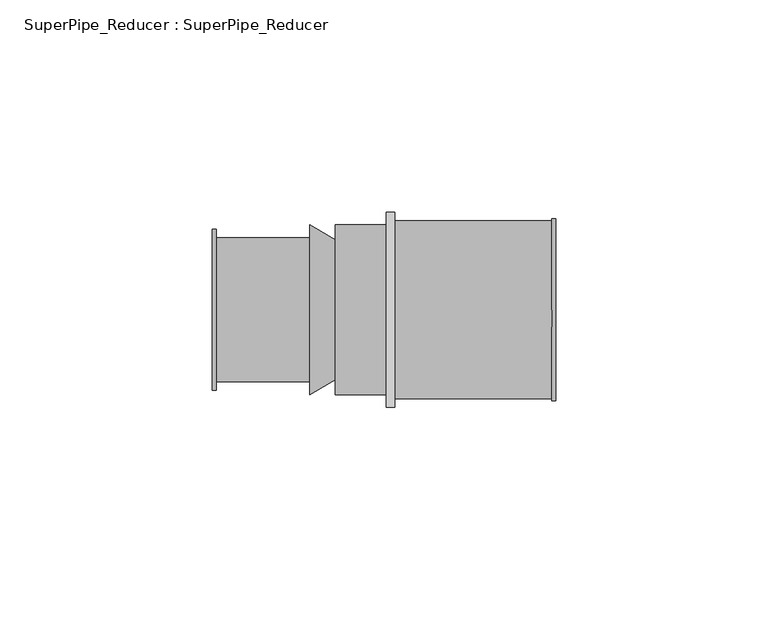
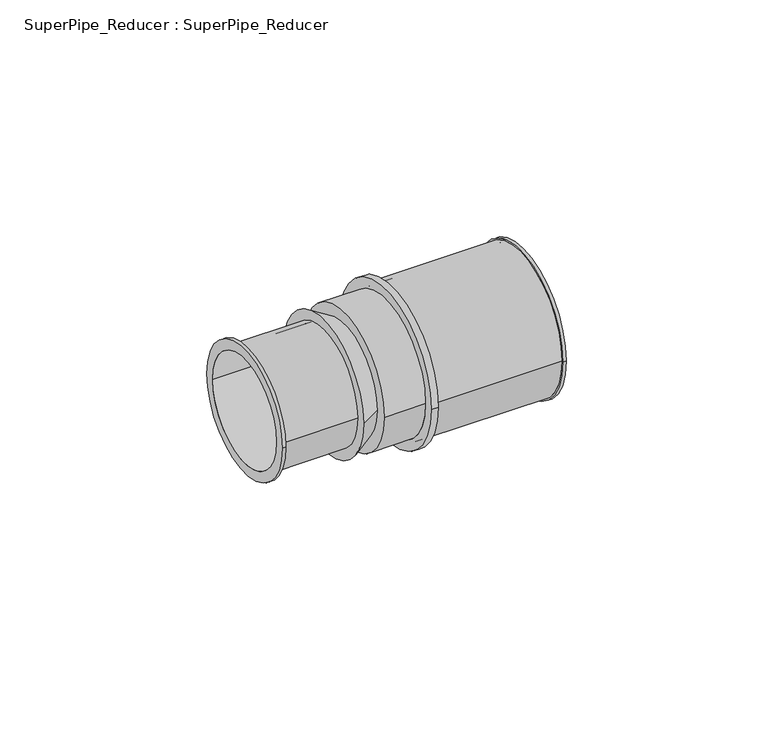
"""IFC4 building model written with IfcOpenShell, lengths in millimetres: pipe fitting geometry, SuperPipe_Reducer : SuperPipe_Reducer."""

from ifc_helpers import new_model, si_unit, point, frame, origin, origin_2d, place, context, project, spatial, polyline, circle_curve, trimmed, segment, composite_curve, outline, extrude, source, transform, mapped, element, save
from ifc_brep_helpers import plane_surface, cylinder_surface, revolved_surface, advanced_brep


def superpipe_reducer_superpipe_reducer_5a229b10(model_context):
    return source(origin(), model_context, "Body", "SolidModel", [
        advanced_brep(
        [(-29.0, -19.0, 0.0), (-29.0, 19.0, 0.0), (-29.0, -16.0, 0.0), (-29.0, 16.0, 0.0), (-6.0, -17.0, 0.0), (-6.0, 17.0, 0.0), (-6.0, -16.0, 0.0), (-6.0, 16.0, 0.0), (-28.0, -16.0, 0.0), (-28.0, 16.0, 0.0), (-28.0, 17.0, 0.0), (-28.0, -17.0, 0.0), (-28.0, -19.0, 0.0), (-28.0, 19.0, 0.0)],
        [
            (0, 1, circle_curve(frame((-29.0, 0.0, 0.0), z_axis=(-1.0, 0.0, 0.0), x_axis=(0.0, 1.0, 0.0)), 19.0)),
            (1, 0, circle_curve(frame((-29.0, 0.0, 0.0), z_axis=(-1.0, 0.0, 0.0), x_axis=(0.0, 1.0, 0.0)), 19.0)),
            (2, 3, circle_curve(frame((-29.0, 0.0, 0.0), z_axis=(1.0, 0.0, 0.0), x_axis=(0.0, 1.0, 0.0)), 16.0)),
            (3, 2, circle_curve(frame((-29.0, 0.0, 0.0), z_axis=(1.0, 0.0, 0.0), x_axis=(0.0, 1.0, 0.0)), 16.0)),
            (4, 5, circle_curve(frame((-6.0, 0.0, 0.0), z_axis=(1.0, 0.0, 0.0), x_axis=(0.0, 1.0, 0.0)), 17.0)),
            (5, 4, circle_curve(frame((-6.0, 0.0, 0.0), z_axis=(1.0, 0.0, 0.0), x_axis=(0.0, 1.0, 0.0)), 17.0)),
            (6, 7, circle_curve(frame((-6.0, 0.0, 0.0), z_axis=(-1.0, 0.0, 0.0), x_axis=(0.0, 1.0, 0.0)), 16.0)),
            (7, 6, circle_curve(frame((-6.0, 0.0, 0.0), z_axis=(-1.0, 0.0, 0.0), x_axis=(0.0, 1.0, 0.0)), 16.0)),
            (2, 8),
            (8, 6),
            (7, 9),
            (9, 3),
            (5, 10),
            (10, 11, circle_curve(frame((-28.0, 0.0, 0.0), z_axis=(1.0, 0.0, 0.0), x_axis=(0.0, 1.0, 0.0)), 17.0)),
            (11, 4),
            (11, 10, circle_curve(frame((-28.0, 0.0, 0.0), z_axis=(1.0, 0.0, 0.0), x_axis=(0.0, 1.0, 0.0)), 17.0)),
            (12, 13, circle_curve(frame((-28.0, 0.0, 0.0), z_axis=(1.0, 0.0, 0.0), x_axis=(0.0, 1.0, 0.0)), 19.0)),
            (13, 12, circle_curve(frame((-28.0, 0.0, 0.0), z_axis=(1.0, 0.0, 0.0), x_axis=(0.0, 1.0, 0.0)), 19.0)),
            (1, 13),
            (12, 0),
        ],
        [
            plane_surface(frame((-29.0, 0.0, 0.0), z_axis=(-1.0, 0.0, 0.0), x_axis=(0.0, 0.0, 1.0))),
            plane_surface(frame((-6.0, 0.0, 0.0), z_axis=(1.0, 0.0, 0.0), x_axis=(0.0, 0.0, 1.0))),
            revolved_surface(polyline([(-6.0, 16.0, 0.0), (-29.0, 16.0, 0.0)]), (-29.0, 0.0, 0.0), (1.0, 0.0, 0.0)),
            cylinder_surface(frame((-29.0, 0.0, 0.0), z_axis=(-1.0, 0.0, 0.0), x_axis=(0.0, 1.0, 0.0)), 17.0),
            plane_surface(frame((-28.0, 0.0, 0.0), z_axis=(1.0, 0.0, 0.0), x_axis=(0.0, 0.0, 1.0))),
            cylinder_surface(frame((-29.0, 0.0, 0.0), z_axis=(-1.0, 0.0, 0.0), x_axis=(0.0, 1.0, 0.0)), 19.0),
        ],
        [
            (0, [[1, 2], [3, 4]]),
            (1, [[5, 6], [7, 8]]),
            (2, [[-3, 9, 10, -8, 11, 12]]),
            (2, [[-4, -12, -11, -7, -10, -9]]),
            (3, [[-6, 13, 14, 15]]),
            (3, [[-5, -15, 16, -13]]),
            (4, [[17, 18], [-14, -16]]),
            (5, [[-2, 19, -17, 20]]),
            (5, [[-1, -20, -18, -19]]),
        ],
    ),
        advanced_brep(
        [(0.0, -16.5, 0.0), (0.0, 16.5, 0.0), (0.0, -16.0, 0.0), (0.0, 16.0, 0.0), (-6.0, -20.0, 0.0), (-6.0, 20.0, 0.0), (-6.0, 16.0, 0.0), (-6.0, -16.0, 0.0)],
        [
            (0, 1, circle_curve(frame((0.0, 0.0, 0.0), z_axis=(1.0, 0.0, 0.0), x_axis=(0.0, -1.0, 0.0)), 16.5)),
            (1, 0, circle_curve(frame((0.0, 0.0, 0.0), z_axis=(1.0, 0.0, 0.0), x_axis=(0.0, 1.0, 0.0)), 16.5)),
            (2, 3, circle_curve(frame((0.0, 0.0, 0.0), z_axis=(-1.0, 0.0, 0.0), x_axis=(0.0, 1.0, 0.0)), 16.0)),
            (3, 2, circle_curve(frame((0.0, 0.0, 0.0), z_axis=(-1.0, 0.0, 0.0), x_axis=(0.0, 1.0, 0.0)), 16.0)),
            (4, 5, circle_curve(frame((-6.0, 0.0, 0.0), z_axis=(-1.0, 0.0, 0.0), x_axis=(0.0, 1.0, 0.0)), 20.0)),
            (5, 4, circle_curve(frame((-6.0, 0.0, 0.0), z_axis=(-1.0, 0.0, 0.0), x_axis=(0.0, -1.0, 0.0)), 20.0)),
            (6, 7, circle_curve(frame((-6.0, 0.0, 0.0), z_axis=(1.0, 0.0, 0.0), x_axis=(0.0, 1.0, 0.0)), 16.0)),
            (7, 6, circle_curve(frame((-6.0, 0.0, 0.0), z_axis=(1.0, 0.0, 0.0), x_axis=(0.0, 1.0, 0.0)), 16.0)),
            (0, 4),
            (5, 1),
            (6, 3),
            (2, 7),
        ],
        [
            plane_surface(frame((0.0, 0.0, 0.0), z_axis=(1.0, 0.0, 0.0), x_axis=(0.0, 0.0, -1.0))),
            plane_surface(frame((-6.0, 0.0, 0.0), z_axis=(-1.0, 0.0, 0.0), x_axis=(0.0, 0.0, -1.0))),
            revolved_surface(polyline([(0.0, -16.500000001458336, 0.0), (-5.9999999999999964, -20.0, 0.0)]), (28.2857143, 0.0, 0.0), (-1.0, 0.0, 0.0)),
            revolved_surface(polyline([(0.0, 16.500000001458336, 0.0), (-5.9999999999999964, 20.0, 0.0)]), (28.2857143, 0.0, 0.0), (-1.0, 0.0, 0.0)),
            revolved_surface(polyline([(-6.0, 16.0, 0.0), (0.0, 16.0, 0.0)]), (-6.0, 0.0, 0.0), (-1.0, 0.0, 0.0)),
        ],
        [
            (0, [[1, 2], [3, 4]]),
            (1, [[5, 6], [7, 8]]),
            (2, [[-1, 9, -6, 10]]),
            (3, [[-2, -10, -5, -9]]),
            (4, [[11, -3, 12, -7]]),
            (4, [[-11, -8, -12, -4]]),
        ],
    ),
        extrude(outline(composite_curve([segment(trimmed(circle_curve(origin_2d(), 23.0), [point((-23.0, 0.0))], [point((23.0, 0.0))], False, "CARTESIAN"), True, "CONTINUOUS"), segment(trimmed(circle_curve(origin_2d(), 23.0), [point((23.0, 0.0))], [point((-23.0, 0.0))], False, "CARTESIAN"), True, "CONTINUOUS")], self_intersect=False), holes=[composite_curve([segment(trimmed(circle_curve(origin_2d(), 20.0), [point((20.0, 0.0))], [point((-20.0, 0.0))], True, "CARTESIAN"), True, "CONTINUOUS"), segment(trimmed(circle_curve(origin_2d(), 20.0), [point((-20.0, 0.0))], [point((20.0, 0.0))], True, "CARTESIAN"), True, "CONTINUOUS")], self_intersect=False)]), frame((12.0, 0.0, 0.0), z_axis=(1.0, 0.0, 0.0), x_axis=(0.0, 1.0, 0.0)), (0.0, 0.0, 1.0), 2.0),
        advanced_brep(
        [(14.0, -21.0, 0.0), (14.0, 21.0, 0.0), (14.0, -20.0, 0.0), (14.0, 20.0, 0.0), (52.0, -21.5, 0.0), (52.0, 21.5, 0.0), (52.0, -20.0, 0.0), (52.0, 20.0, 0.0), (51.0, -21.0, 0.0), (51.0, 21.0, 0.0), (51.0, -20.0, 0.0), (51.0, 20.0, 0.0), (51.0, -21.5, 0.0), (51.0, 21.5, 0.0)],
        [
            (0, 1, circle_curve(frame((14.0, 0.0, 0.0), z_axis=(-1.0, 0.0, 0.0), x_axis=(0.0, 1.0, 0.0)), 21.0)),
            (1, 0, circle_curve(frame((14.0, 0.0, 0.0), z_axis=(-1.0, 0.0, 0.0), x_axis=(0.0, 1.0, 0.0)), 21.0)),
            (2, 3, circle_curve(frame((14.0, 0.0, 0.0), z_axis=(1.0, 0.0, 0.0), x_axis=(0.0, 1.0, 0.0)), 20.0)),
            (3, 2, circle_curve(frame((14.0, 0.0, 0.0), z_axis=(1.0, 0.0, 0.0), x_axis=(0.0, 1.0, 0.0)), 20.0)),
            (4, 5, circle_curve(frame((52.0, 0.0, 0.0), z_axis=(1.0, 0.0, 0.0), x_axis=(0.0, 1.0, 0.0)), 21.5)),
            (5, 4, circle_curve(frame((52.0, 0.0, 0.0), z_axis=(1.0, 0.0, 0.0), x_axis=(0.0, 1.0, 0.0)), 21.5)),
            (6, 7, circle_curve(frame((52.0, 0.0, 0.0), z_axis=(-1.0, 0.0, 0.0), x_axis=(0.0, 1.0, 0.0)), 20.0)),
            (7, 6, circle_curve(frame((52.0, 0.0, 0.0), z_axis=(-1.0, 0.0, 0.0), x_axis=(0.0, 1.0, 0.0)), 20.0)),
            (0, 8),
            (8, 9, circle_curve(frame((51.0, 0.0, 0.0), z_axis=(-1.0, 0.0, 0.0), x_axis=(0.0, 1.0, 0.0)), 21.0)),
            (9, 1),
            (9, 8, circle_curve(frame((51.0, 0.0, 0.0), z_axis=(-1.0, 0.0, 0.0), x_axis=(0.0, 1.0, 0.0)), 21.0)),
            (2, 10),
            (10, 6),
            (7, 11),
            (11, 3),
            (12, 13, circle_curve(frame((51.0, 0.0, 0.0), z_axis=(-1.0, 0.0, 0.0), x_axis=(0.0, 1.0, 0.0)), 21.5)),
            (13, 12, circle_curve(frame((51.0, 0.0, 0.0), z_axis=(-1.0, 0.0, 0.0), x_axis=(0.0, 1.0, 0.0)), 21.5)),
            (13, 5),
            (4, 12),
        ],
        [
            plane_surface(frame((14.0, 0.0, 0.0), z_axis=(-1.0, 0.0, 0.0), x_axis=(0.0, 0.0, 1.0))),
            plane_surface(frame((52.0, 0.0, 0.0), z_axis=(1.0, 0.0, 0.0), x_axis=(0.0, 0.0, 1.0))),
            cylinder_surface(frame((14.0, 0.0, 0.0), z_axis=(-1.0, 0.0, 0.0), x_axis=(0.0, 1.0, 0.0)), 21.0),
            revolved_surface(polyline([(52.0, 20.0, 0.0), (14.0, 20.0, 0.0)]), (14.0, 0.0, 0.0), (1.0, 0.0, 0.0)),
            plane_surface(frame((51.0, 0.0, 0.0), z_axis=(-1.0, 0.0, 0.0), x_axis=(0.0, 0.0, 1.0))),
            cylinder_surface(frame((51.0, 0.0, 0.0), z_axis=(-1.0, 0.0, 0.0), x_axis=(0.0, 1.0, 0.0)), 21.5),
        ],
        [
            (0, [[1, 2], [3, 4]]),
            (1, [[5, 6], [7, 8]]),
            (2, [[-1, 9, 10, 11]]),
            (2, [[-2, -11, 12, -9]]),
            (3, [[-3, 13, 14, -8, 15, 16]]),
            (3, [[-4, -16, -15, -7, -14, -13]]),
            (4, [[17, 18], [-10, -12]]),
            (5, [[-18, 19, -5, 20]]),
            (5, [[-17, -20, -6, -19]]),
        ],
    ),
        extrude(outline(composite_curve([segment(trimmed(circle_curve(origin_2d(), 20.0), [point((-20.0, 0.0))], [point((20.0, 0.0))], False, "CARTESIAN"), True, "CONTINUOUS"), segment(trimmed(circle_curve(origin_2d(), 20.0), [point((20.0, 0.0))], [point((-20.0, 0.0))], False, "CARTESIAN"), True, "CONTINUOUS")], self_intersect=False)), frame((0.0, 0.0, 0.0), z_axis=(1.0, 0.0, 0.0), x_axis=(0.0, 1.0, 0.0)), (0.0, 0.0, 1.0), 12.0),
    ])


if __name__ == "__main__":
    model = new_model("IFC4")
    model_context = context("Model", 3, world=origin())
    ifc_project = project(units=[si_unit("LENGTHUNIT", "METRE", prefix="MILLI")], contexts=[model_context])
    site = spatial("IfcSite", under=ifc_project)
    building = spatial("IfcBuilding", under=site)
    placement = place(None, origin())
    superpipe_reducer_superpipe_reducer_shape = superpipe_reducer_superpipe_reducer_5a229b10(model_context)
    element("IfcPipeFitting", 1, ObjectType="SuperPipe_Reducer : SuperPipe_Reducer", at=placement, inside=building, context=model_context, shape_type="MappedRepresentation", body=[
        mapped(superpipe_reducer_superpipe_reducer_shape, transform((0.0, 0.0, 0.0), x_axis=(1.0, 0.0, 0.0), y_axis=(0.0, 1.0, 0.0), z_axis=(0.0, 0.0, 1.0))),
    ])
    save(model, "model.ifc")
